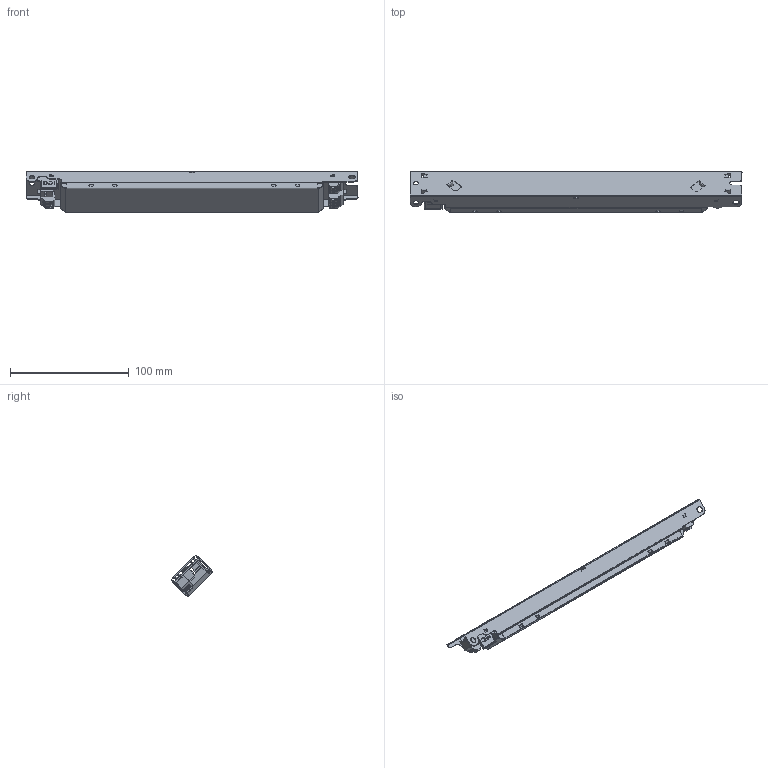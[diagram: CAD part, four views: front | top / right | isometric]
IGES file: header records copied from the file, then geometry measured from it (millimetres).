
Start section: SolidWorks IGES file using analytic representation for surfaces
Global section: file name: C:\Users\vuorinen_kari\OneDrive - Helvar Oy Ab\Desktop\prj\T5758 LL80HE-DA\LL80HE-DA.IGS; native system: SolidWorks 2014; preprocessor: SolidWorks 2014; author: Vuorinen_Kari; date: 220425.195146; units: millimetre
Bounding box: 280 x 35.32 x 35.22 mm (x, y, z)
Surface area: 73541.1 mm2 (no closed solid volume)
Topology: 0 solids, 0 shells, 1241 faces, 9026 edges, 9020 vertices
Faces by surface type: bspline 862, revolution 379
